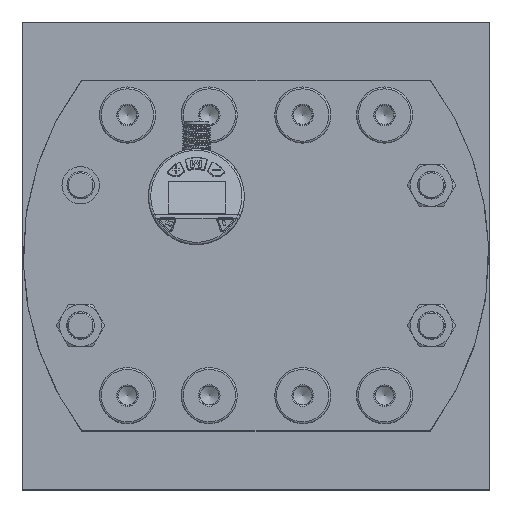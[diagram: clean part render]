
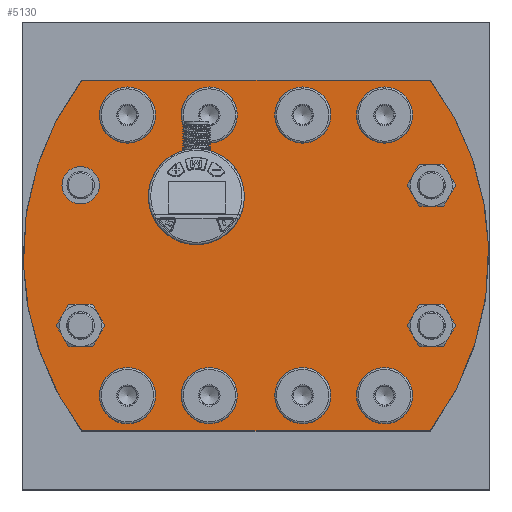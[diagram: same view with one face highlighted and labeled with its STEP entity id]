
A CAD part, top view. The second image highlights one B-rep face of the part: STEP entity #5130.
In plain terms, the highlighted planar face has unit normal (0, 0, 1).
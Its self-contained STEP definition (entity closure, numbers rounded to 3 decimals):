
#2075=LINE('',#24442,#2727);
#2076=LINE('',#24448,#2728);
#2727=VECTOR('',#19853,1.);
#2728=VECTOR('',#19858,1.);
#5130=ADVANCED_FACE('',(#6587,#6588,#6589,#6590,#6591,#6592,#6593,#6594,
#6595,#6596,#6597,#6598,#6599),#5866,.T.);
#5866=PLANE('',#16954);
#6587=FACE_BOUND('',#7639,.T.);
#6588=FACE_BOUND('',#7640,.T.);
#6589=FACE_BOUND('',#7641,.T.);
#6590=FACE_BOUND('',#7642,.T.);
#6591=FACE_BOUND('',#7643,.T.);
#6592=FACE_BOUND('',#7644,.T.);
#6593=FACE_BOUND('',#7645,.T.);
#6594=FACE_BOUND('',#7646,.T.);
#6595=FACE_BOUND('',#7647,.T.);
#6596=FACE_BOUND('',#7648,.T.);
#6597=FACE_BOUND('',#7649,.T.);
#6598=FACE_BOUND('',#7650,.T.);
#6599=FACE_BOUND('',#7651,.T.);
#7639=EDGE_LOOP('',(#9799));
#7640=EDGE_LOOP('',(#9800));
#7641=EDGE_LOOP('',(#9801));
#7642=EDGE_LOOP('',(#9802));
#7643=EDGE_LOOP('',(#9803));
#7644=EDGE_LOOP('',(#9804));
#7645=EDGE_LOOP('',(#9805));
#7646=EDGE_LOOP('',(#9806));
#7647=EDGE_LOOP('',(#9807));
#7648=EDGE_LOOP('',(#9808));
#7649=EDGE_LOOP('',(#9809));
#7650=EDGE_LOOP('',(#9810));
#7651=EDGE_LOOP('',(#9811,#9812,#9813,#9814,#9815,#9816));
#9799=ORIENTED_EDGE('',*,*,#14092,.T.);
#9800=ORIENTED_EDGE('',*,*,#14091,.T.);
#9801=ORIENTED_EDGE('',*,*,#14090,.T.);
#9802=ORIENTED_EDGE('',*,*,#14089,.T.);
#9803=ORIENTED_EDGE('',*,*,#14088,.T.);
#9804=ORIENTED_EDGE('',*,*,#14087,.T.);
#9805=ORIENTED_EDGE('',*,*,#14086,.T.);
#9806=ORIENTED_EDGE('',*,*,#14085,.T.);
#9807=ORIENTED_EDGE('',*,*,#14084,.F.);
#9808=ORIENTED_EDGE('',*,*,#14083,.F.);
#9809=ORIENTED_EDGE('',*,*,#14082,.F.);
#9810=ORIENTED_EDGE('',*,*,#14081,.F.);
#9811=ORIENTED_EDGE('',*,*,#14093,.F.);
#9812=ORIENTED_EDGE('',*,*,#14094,.T.);
#9813=ORIENTED_EDGE('',*,*,#14095,.F.);
#9814=ORIENTED_EDGE('',*,*,#14096,.F.);
#9815=ORIENTED_EDGE('',*,*,#14097,.F.);
#9816=ORIENTED_EDGE('',*,*,#14098,.F.);
#12596=VERTEX_POINT('',#24404);
#12597=VERTEX_POINT('',#24407);
#12598=VERTEX_POINT('',#24410);
#12599=VERTEX_POINT('',#24413);
#12600=VERTEX_POINT('',#24416);
#12601=VERTEX_POINT('',#24419);
#12602=VERTEX_POINT('',#24422);
#12603=VERTEX_POINT('',#24425);
#12604=VERTEX_POINT('',#24428);
#12605=VERTEX_POINT('',#24431);
#12606=VERTEX_POINT('',#24434);
#12607=VERTEX_POINT('',#24437);
#12608=VERTEX_POINT('',#24440);
#12609=VERTEX_POINT('',#24441);
#12610=VERTEX_POINT('',#24443);
#12611=VERTEX_POINT('',#24445);
#12612=VERTEX_POINT('',#24447);
#12613=VERTEX_POINT('',#24449);
#14081=EDGE_CURVE('',#12596,#12596,#15616,.T.);
#14082=EDGE_CURVE('',#12597,#12597,#15617,.T.);
#14083=EDGE_CURVE('',#12598,#12598,#15618,.T.);
#14084=EDGE_CURVE('',#12599,#12599,#15619,.T.);
#14085=EDGE_CURVE('',#12600,#12600,#15620,.T.);
#14086=EDGE_CURVE('',#12601,#12601,#15621,.T.);
#14087=EDGE_CURVE('',#12602,#12602,#15622,.T.);
#14088=EDGE_CURVE('',#12603,#12603,#15623,.T.);
#14089=EDGE_CURVE('',#12604,#12604,#15624,.T.);
#14090=EDGE_CURVE('',#12605,#12605,#15625,.T.);
#14091=EDGE_CURVE('',#12606,#12606,#15626,.T.);
#14092=EDGE_CURVE('',#12607,#12607,#15627,.T.);
#14093=EDGE_CURVE('',#12608,#12609,#15628,.T.);
#14094=EDGE_CURVE('',#12608,#12610,#2075,.T.);
#14095=EDGE_CURVE('',#12611,#12610,#15629,.T.);
#14096=EDGE_CURVE('',#12612,#12611,#15630,.T.);
#14097=EDGE_CURVE('',#12613,#12612,#2076,.T.);
#14098=EDGE_CURVE('',#12609,#12613,#15631,.T.);
#15616=CIRCLE('',#16926,8.);
#15617=CIRCLE('',#16928,8.);
#15618=CIRCLE('',#16930,8.);
#15619=CIRCLE('',#16932,8.);
#15620=CIRCLE('',#16934,8.);
#15621=CIRCLE('',#16936,8.);
#15622=CIRCLE('',#16938,8.);
#15623=CIRCLE('',#16940,8.);
#15624=CIRCLE('',#16942,8.);
#15625=CIRCLE('',#16944,8.);
#15626=CIRCLE('',#16946,8.);
#15627=CIRCLE('',#16948,8.);
#15628=CIRCLE('',#16950,125.);
#15629=CIRCLE('',#16951,125.);
#15630=CIRCLE('',#16952,125.);
#15631=CIRCLE('',#16953,125.);
#16926=AXIS2_PLACEMENT_3D('',#24403,#19803,#19804);
#16928=AXIS2_PLACEMENT_3D('',#24406,#19807,#19808);
#16930=AXIS2_PLACEMENT_3D('',#24409,#19811,#19812);
#16932=AXIS2_PLACEMENT_3D('',#24412,#19815,#19816);
#16934=AXIS2_PLACEMENT_3D('',#24415,#19819,#19820);
#16936=AXIS2_PLACEMENT_3D('',#24418,#19823,#19824);
#16938=AXIS2_PLACEMENT_3D('',#24421,#19827,#19828);
#16940=AXIS2_PLACEMENT_3D('',#24424,#19831,#19832);
#16942=AXIS2_PLACEMENT_3D('',#24427,#19835,#19836);
#16944=AXIS2_PLACEMENT_3D('',#24430,#19839,#19840);
#16946=AXIS2_PLACEMENT_3D('',#24433,#19843,#19844);
#16948=AXIS2_PLACEMENT_3D('',#24436,#19847,#19848);
#16950=AXIS2_PLACEMENT_3D('',#24439,#19851,#19852);
#16951=AXIS2_PLACEMENT_3D('',#24444,#19854,#19855);
#16952=AXIS2_PLACEMENT_3D('',#24446,#19856,#19857);
#16953=AXIS2_PLACEMENT_3D('',#24450,#19859,#19860);
#16954=AXIS2_PLACEMENT_3D('',#24451,#19861,#19862);
#19803=DIRECTION('',(0.,0.,1.));
#19804=DIRECTION('',(1.,0.,0.));
#19807=DIRECTION('',(0.,0.,1.));
#19808=DIRECTION('',(1.,0.,0.));
#19811=DIRECTION('',(0.,0.,1.));
#19812=DIRECTION('',(1.,0.,0.));
#19815=DIRECTION('',(0.,0.,1.));
#19816=DIRECTION('',(1.,0.,0.));
#19819=DIRECTION('',(0.,0.,-1.));
#19820=DIRECTION('',(1.,0.,0.));
#19823=DIRECTION('',(0.,0.,-1.));
#19824=DIRECTION('',(1.,0.,0.));
#19827=DIRECTION('',(0.,0.,-1.));
#19828=DIRECTION('',(1.,0.,0.));
#19831=DIRECTION('',(0.,0.,-1.));
#19832=DIRECTION('',(1.,0.,0.));
#19835=DIRECTION('',(0.,0.,-1.));
#19836=DIRECTION('',(1.,0.,0.));
#19839=DIRECTION('',(0.,0.,-1.));
#19840=DIRECTION('',(1.,0.,0.));
#19843=DIRECTION('',(0.,0.,-1.));
#19844=DIRECTION('',(1.,0.,0.));
#19847=DIRECTION('',(0.,0.,-1.));
#19848=DIRECTION('',(1.,0.,0.));
#19851=DIRECTION('',(0.,0.,-1.));
#19852=DIRECTION('',(1.,0.,0.));
#19853=DIRECTION('',(1.,0.,0.));
#19854=DIRECTION('',(0.,0.,-1.));
#19855=DIRECTION('',(1.,0.,0.));
#19856=DIRECTION('',(0.,0.,-1.));
#19857=DIRECTION('',(1.,0.,0.));
#19858=DIRECTION('',(1.,0.,0.));
#19859=DIRECTION('',(0.,0.,-1.));
#19860=DIRECTION('',(1.,0.,0.));
#19861=DIRECTION('',(0.,0.,1.));
#19862=DIRECTION('',(-1.,0.,0.));
#24403=CARTESIAN_POINT('',(80.5,60.,70.775));
#24404=CARTESIAN_POINT('',(88.5,60.,70.775));
#24406=CARTESIAN_POINT('',(80.5,-60.,70.775));
#24407=CARTESIAN_POINT('',(88.5,-60.,70.775));
#24409=CARTESIAN_POINT('',(-29.5,-60.,70.775));
#24410=CARTESIAN_POINT('',(-21.5,-60.,70.775));
#24412=CARTESIAN_POINT('',(-29.5,60.,70.775));
#24413=CARTESIAN_POINT('',(-21.5,60.,70.775));
#24415=CARTESIAN_POINT('',(100.5,-30.,70.775));
#24416=CARTESIAN_POINT('',(108.5,-30.,70.775));
#24418=CARTESIAN_POINT('',(100.5,30.,70.775));
#24419=CARTESIAN_POINT('',(108.5,30.,70.775));
#24421=CARTESIAN_POINT('',(-49.5,30.,70.775));
#24422=CARTESIAN_POINT('',(-41.5,30.,70.775));
#24424=CARTESIAN_POINT('',(-49.5,-30.,70.775));
#24425=CARTESIAN_POINT('',(-41.5,-30.,70.775));
#24427=CARTESIAN_POINT('',(45.5,-60.,70.775));
#24428=CARTESIAN_POINT('',(53.5,-60.,70.775));
#24430=CARTESIAN_POINT('',(45.5,60.,70.775));
#24431=CARTESIAN_POINT('',(53.5,60.,70.775));
#24433=CARTESIAN_POINT('',(5.5,-60.,70.775));
#24434=CARTESIAN_POINT('',(13.5,-60.,70.775));
#24436=CARTESIAN_POINT('',(5.5,60.,70.775));
#24437=CARTESIAN_POINT('',(13.5,60.,70.775));
#24439=CARTESIAN_POINT('',(51.,0.,70.775));
#24440=CARTESIAN_POINT('',(-49.,-75.,70.775));
#24441=CARTESIAN_POINT('',(-73.946,-3.663,70.775));
#24442=CARTESIAN_POINT('',(-34.5,-75.,70.775));
#24443=CARTESIAN_POINT('',(100.,-75.,70.775));
#24444=CARTESIAN_POINT('',(0.,0.,70.775));
#24445=CARTESIAN_POINT('',(124.946,3.663,70.775));
#24446=CARTESIAN_POINT('',(0.,0.,70.775));
#24447=CARTESIAN_POINT('',(100.,75.,70.775));
#24448=CARTESIAN_POINT('',(85.5,75.,70.775));
#24449=CARTESIAN_POINT('',(-49.,75.,70.775));
#24450=CARTESIAN_POINT('',(51.,0.,70.775));
#24451=CARTESIAN_POINT('',(85.5,60.,70.775));
